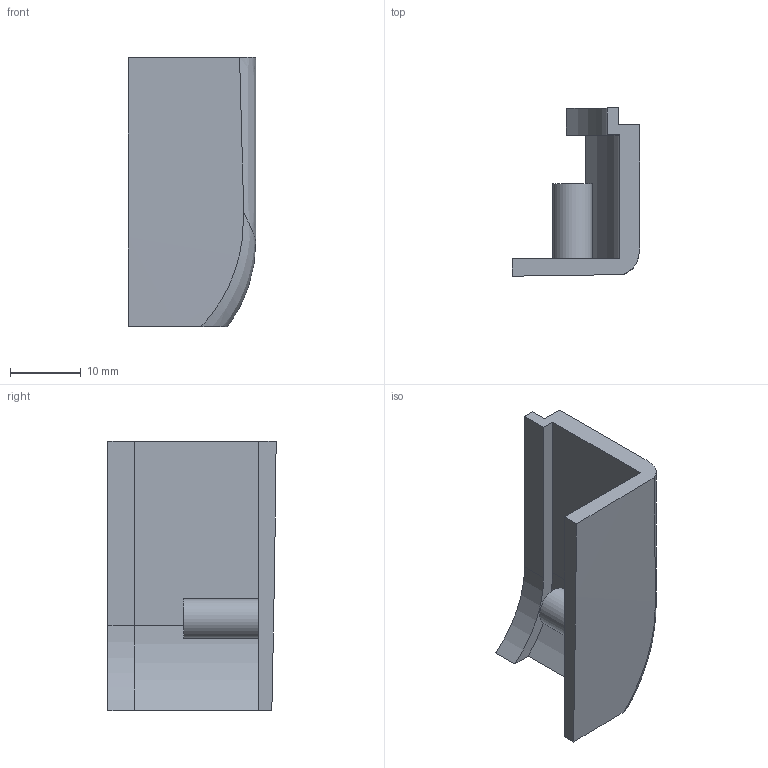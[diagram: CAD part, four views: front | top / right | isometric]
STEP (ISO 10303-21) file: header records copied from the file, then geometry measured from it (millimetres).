
FILE_DESCRIPTION(('Open CASCADE Model'),'2;1');
FILE_NAME('Open CASCADE Shape Model','2026-09-06T11:49:08',('Author'),( 'Open CASCADE'),'Open CASCADE STEP processor 7.8','build123d', 'Unknown');
FILE_SCHEMA(('AUTOMOTIVE_DESIGN { 1 0 10303 214 1 1 1 1 }'));
Length unit declared in the file: millimetre
Products named in the file (2): =>[0:1:1:2]; SOLID
Assembly tree (1 placements, depth 2):
  =>[0:1:1:2]
    SOLID
Bounding box: 18 x 23.74 x 38 mm (x, y, z)
Volume: 3861 mm3; surface area: 3671.5 mm2
Topology: 1 solids, 1 shells, 22 faces, 54 edges, 36 vertices
Faces by surface type: plane 13, cylinder 6, bspline 2, sphere 1
Full cylindrical faces by diameter (mm): 2 x1, 5.6 x1
Entity records: 2109 total; most frequent: CARTESIAN_POINT 1087, DIRECTION 158, ORIENTED_EDGE 108, PCURVE 108, DEFINITIONAL_REPRESENTATION 108, LINE 77, VECTOR 77, B_SPLINE_CURVE_WITH_KNOTS 56
